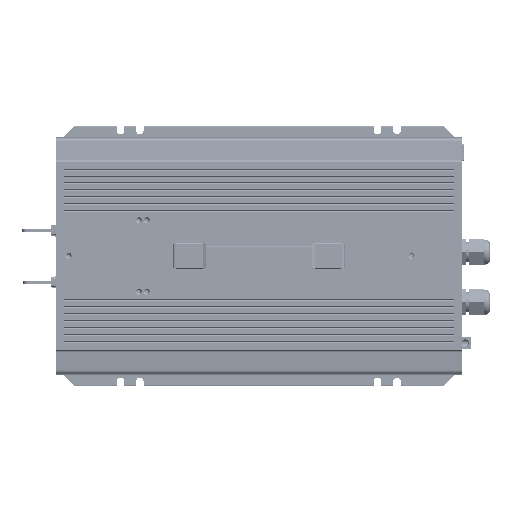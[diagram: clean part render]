
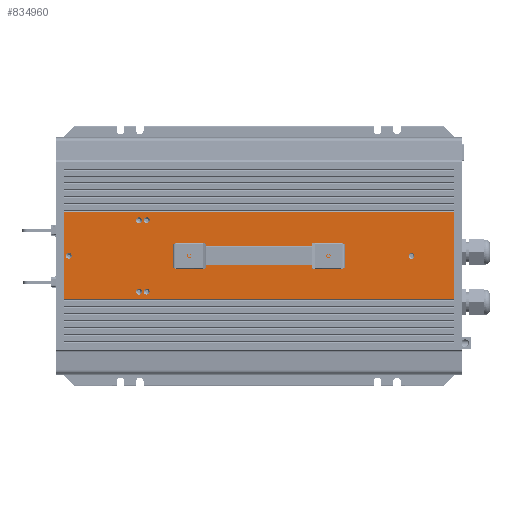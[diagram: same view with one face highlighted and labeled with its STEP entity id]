
A CAD part, top view. The second image highlights one B-rep face of the part: STEP entity #834960.
In plain terms, the highlighted planar face has unit normal (0, 0, 1) as drawn and (0, 1, 0) by its records, which use the part's own axes.
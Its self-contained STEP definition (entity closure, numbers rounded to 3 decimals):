
#814540=CARTESIAN_POINT('',(2078.449,98.104,-63.1));
#814550=VERTEX_POINT('',#814540);
#814580=CARTESIAN_POINT('',(2078.449,98.104,-63.1));
#814590=DIRECTION('',(-1.,0.,0.));
#814600=VECTOR('',#814590,1.);
#814610=LINE('',#814580,#814600);
#814620=CARTESIAN_POINT('',(1988.299,98.104,-63.1));
#814630=VERTEX_POINT('',#814620);
#814640=EDGE_CURVE('',#814550,#814630,#814610,.T.);
#823430=CARTESIAN_POINT('',(1988.299,98.104,340.9));
#823440=VERTEX_POINT('',#823430);
#823470=CARTESIAN_POINT('',(1988.299,98.104,340.9));
#823480=DIRECTION('',(1.,0.,0.));
#823490=VECTOR('',#823480,1.);
#823500=LINE('',#823470,#823490);
#823510=CARTESIAN_POINT('',(2078.449,98.104,340.9));
#823520=VERTEX_POINT('',#823510);
#823530=EDGE_CURVE('',#823440,#823520,#823500,.T.);
#833030=CARTESIAN_POINT('',(1999.284,98.104,14.949)
);
#833040=VERTEX_POINT('',#833030);
#833070=CARTESIAN_POINT('',(1996.284,98.104,14.949)
);
#833080=DIRECTION('',(0.,-1.,-0.));
#833090=DIRECTION('',(-0.257,0.,-0.966));
#833100=AXIS2_PLACEMENT_3D('',#833070,#833080,#833090);
#833110=CIRCLE('',#833100,3.);
#833120=CARTESIAN_POINT('',(1993.284,98.104,14.949)
);
#833130=VERTEX_POINT('',#833120);
#833140=EDGE_CURVE('',#833040,#833130,#833110,.T.);
#833570=CARTESIAN_POINT('',(2028.721,98.104,122.9));
#833580=DIRECTION('',(0.,-1.,0.));
#833590=DIRECTION('',(1.,0.,0.));
#833600=AXIS2_PLACEMENT_3D('',#833570,#833580,#833590);
#833610=PLANE('',#833600);
#833620=ORIENTED_EDGE('',*,*,#814640,.T.);
#833630=CARTESIAN_POINT('',(2078.449,98.104,340.9));
#833640=DIRECTION('',(0.,0.,-1.));
#833650=VECTOR('',#833640,1.);
#833660=LINE('',#833630,#833650);
#833670=EDGE_CURVE('',#823520,#814550,#833660,.T.);
#833680=ORIENTED_EDGE('',*,*,#833670,.T.);
#833690=ORIENTED_EDGE('',*,*,#823530,.T.);
#833700=CARTESIAN_POINT('',(1988.299,98.104,-63.1));
#833710=DIRECTION('',(0.,0.,1.));
#833720=VECTOR('',#833710,1.);
#833730=LINE('',#833700,#833720);
#833740=EDGE_CURVE('',#814630,#823440,#833730,.T.);
#833750=ORIENTED_EDGE('',*,*,#833740,.T.);
#833760=EDGE_LOOP('',(#833750,#833690,#833680,#833620));
#833770=FACE_OUTER_BOUND('',#833760,.T.);
#833780=CARTESIAN_POINT('',(2033.376,98.104,210.9));
#833790=DIRECTION('',(0.,-1.,0.));
#833800=DIRECTION('',(0.,0.,1.));
#833810=AXIS2_PLACEMENT_3D('',#833780,#833790,#833800);
#833820=CIRCLE('',#833810,1.6);
#833830=CARTESIAN_POINT('',(2033.376,98.104,209.3));
#833840=VERTEX_POINT('',#833830);
#833850=CARTESIAN_POINT('',(2033.376,98.104,212.5));
#833860=VERTEX_POINT('',#833850);
#833870=EDGE_CURVE('',#833840,#833860,#833820,.T.);
#833880=ORIENTED_EDGE('',*,*,#833870,.T.);
#833890=EDGE_CURVE('',#833860,#833840,#833820,.T.);
#833900=ORIENTED_EDGE('',*,*,#833890,.T.);
#833910=EDGE_LOOP('',(#833900,#833880));
#833920=FACE_BOUND('',#833910,.T.);
#833930=CARTESIAN_POINT('',(1996.284,98.104,22.949)
);
#833940=DIRECTION('',(0.,-1.,-0.));
#833950=DIRECTION('',(0.,0.,-1.));
#833960=AXIS2_PLACEMENT_3D('',#833930,#833940,#833950);
#833970=CIRCLE('',#833960,3.);
#833980=CARTESIAN_POINT('',(1999.284,98.104,22.949)
);
#833990=VERTEX_POINT('',#833980);
#834000=CARTESIAN_POINT('',(1993.284,98.104,22.949)
);
#834010=VERTEX_POINT('',#834000);
#834020=EDGE_CURVE('',#833990,#834010,#833970,.T.);
#834030=ORIENTED_EDGE('',*,*,#834020,.T.);
#834040=CARTESIAN_POINT('',(1996.284,98.104,19.949)
);
#834050=VERTEX_POINT('',#834040);
#834060=EDGE_CURVE('',#834050,#833990,#833970,.T.);
#834070=ORIENTED_EDGE('',*,*,#834060,.T.);
#834080=EDGE_CURVE('',#834010,#834050,#833970,.T.);
#834090=ORIENTED_EDGE('',*,*,#834080,.T.);
#834100=EDGE_LOOP('',(#834090,#834070,#834030));
#834110=FACE_BOUND('',#834100,.T.);
#834120=CARTESIAN_POINT('',(2033.374,98.104,296.9));
#834130=DIRECTION('',(0.,-1.,0.));
#834140=DIRECTION('',(1.,0.,0.));
#834150=AXIS2_PLACEMENT_3D('',#834120,#834130,#834140);
#834160=CIRCLE('',#834150,3.);
#834170=CARTESIAN_POINT('',(2030.374,98.104,296.9));
#834180=VERTEX_POINT('',#834170);
#834190=CARTESIAN_POINT('',(2036.374,98.104,296.9));
#834200=VERTEX_POINT('',#834190);
#834210=EDGE_CURVE('',#834180,#834200,#834160,.T.);
#834220=ORIENTED_EDGE('',*,*,#834210,.T.);
#834230=EDGE_CURVE('',#834200,#834180,#834160,.T.);
#834240=ORIENTED_EDGE('',*,*,#834230,.T.);
#834250=EDGE_LOOP('',(#834240,#834220));
#834260=FACE_BOUND('',#834250,.T.);
#834270=CARTESIAN_POINT('',(2033.376,98.104,
-57.6));
#834280=DIRECTION('',(0.,-1.,0.));
#834290=DIRECTION('',(1.,0.,0.));
#834300=AXIS2_PLACEMENT_3D('',#834270,#834280,#834290);
#834310=CIRCLE('',#834300,3.);
#834320=CARTESIAN_POINT('',(2030.376,98.104,
-57.6));
#834330=VERTEX_POINT('',#834320);
#834340=CARTESIAN_POINT('',(2036.376,98.104,
-57.6));
#834350=VERTEX_POINT('',#834340);
#834360=EDGE_CURVE('',#834330,#834350,#834310,.T.);
#834370=ORIENTED_EDGE('',*,*,#834360,.T.);
#834380=EDGE_CURVE('',#834350,#834330,#834310,.T.);
#834390=ORIENTED_EDGE('',*,*,#834380,.T.);
#834400=EDGE_LOOP('',(#834390,#834370));
#834410=FACE_BOUND('',#834400,.T.);
#834420=CARTESIAN_POINT('',(2070.318,98.104,14.949));
#834430=DIRECTION('',(0.,-1.,-0.));
#834440=DIRECTION('',(1.,0.,0.));
#834450=AXIS2_PLACEMENT_3D('',#834420,#834430,#834440);
#834460=CIRCLE('',#834450,3.);
#834470=CARTESIAN_POINT('',(2067.318,98.104,14.949));
#834480=VERTEX_POINT('',#834470);
#834490=CARTESIAN_POINT('',(2073.318,98.104,14.949));
#834500=VERTEX_POINT('',#834490);
#834510=EDGE_CURVE('',#834480,#834500,#834460,.T.);
#834520=ORIENTED_EDGE('',*,*,#834510,.T.);
#834530=EDGE_CURVE('',#834500,#834480,#834460,.T.);
#834540=ORIENTED_EDGE('',*,*,#834530,.T.);
#834550=EDGE_LOOP('',(#834540,#834520));
#834560=FACE_BOUND('',#834550,.T.);
#834570=ORIENTED_EDGE('',*,*,#833140,.T.);
#834580=CARTESIAN_POINT('',(1995.513,98.104,12.05)
);
#834590=VERTEX_POINT('',#834580);
#834600=EDGE_CURVE('',#834590,#833040,#833110,.T.);
#834610=ORIENTED_EDGE('',*,*,#834600,.T.);
#834620=EDGE_CURVE('',#833130,#834590,#833110,.T.);
#834630=ORIENTED_EDGE('',*,*,#834620,.T.);
#834640=EDGE_LOOP('',(#834630,#834610,#834570));
#834650=FACE_BOUND('',#834640,.T.);
#834660=CARTESIAN_POINT('',(2070.318,98.104,22.949));
#834670=DIRECTION('',(0.,-1.,0.));
#834680=DIRECTION('',(1.,0.,0.));
#834690=AXIS2_PLACEMENT_3D('',#834660,#834670,#834680);
#834700=CIRCLE('',#834690,3.);
#834710=CARTESIAN_POINT('',(2067.318,98.104,22.949));
#834720=VERTEX_POINT('',#834710);
#834730=CARTESIAN_POINT('',(2073.318,98.104,22.949));
#834740=VERTEX_POINT('',#834730);
#834750=EDGE_CURVE('',#834720,#834740,#834700,.T.);
#834760=ORIENTED_EDGE('',*,*,#834750,.T.);
#834770=EDGE_CURVE('',#834740,#834720,#834700,.T.);
#834780=ORIENTED_EDGE('',*,*,#834770,.T.);
#834790=EDGE_LOOP('',(#834780,#834760));
#834800=FACE_BOUND('',#834790,.T.);
#834810=CARTESIAN_POINT('',(2033.376,98.104,66.9));
#834820=DIRECTION('',(0.,-1.,0.));
#834830=DIRECTION('',(0.,0.,1.));
#834840=AXIS2_PLACEMENT_3D('',#834810,#834820,#834830);
#834850=CIRCLE('',#834840,1.6);
#834860=CARTESIAN_POINT('',(2033.376,98.104,68.5));
#834870=VERTEX_POINT('',#834860);
#834880=CARTESIAN_POINT('',(2033.376,98.104,65.3));
#834890=VERTEX_POINT('',#834880);
#834900=EDGE_CURVE('',#834870,#834890,#834850,.T.);
#834910=ORIENTED_EDGE('',*,*,#834900,.T.);
#834920=EDGE_CURVE('',#834890,#834870,#834850,.T.);
#834930=ORIENTED_EDGE('',*,*,#834920,.T.);
#834940=EDGE_LOOP('',(#834930,#834910));
#834950=FACE_BOUND('',#834940,.T.);
#834960=ADVANCED_FACE('',(#833770,#833920,#834110,#834260,#834410,
#834560,#834650,#834800,#834950),#833610,.F.);
